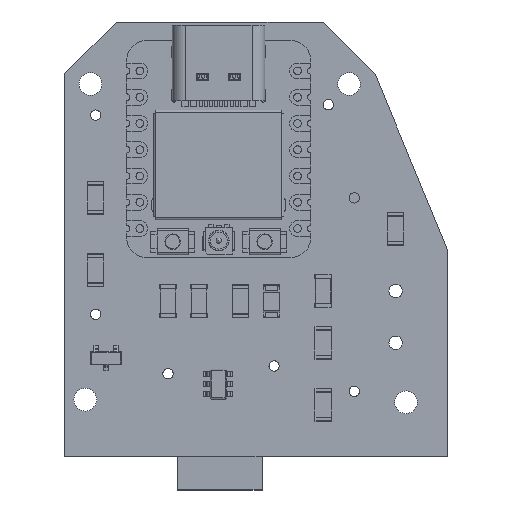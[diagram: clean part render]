
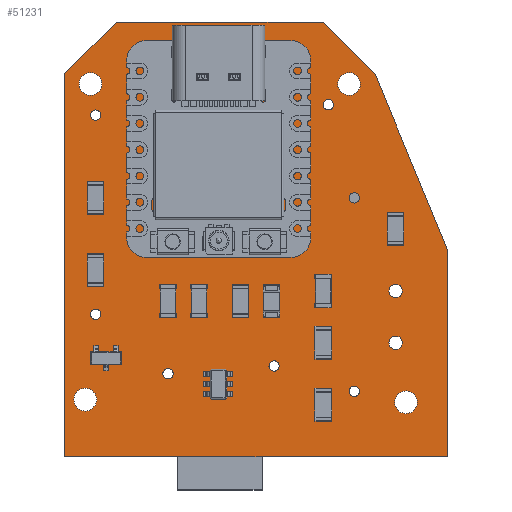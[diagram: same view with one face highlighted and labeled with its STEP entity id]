
A CAD part, top view. The second image highlights one B-rep face of the part: STEP entity #51231.
In plain terms, the highlighted planar face has unit normal (0, 0, 1).
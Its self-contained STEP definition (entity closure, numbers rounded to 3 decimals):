
#50877 = VERTEX_POINT('',#50878);
#50878 = CARTESIAN_POINT('',(115.,-80.,1.51));
#50884 = EDGE_CURVE('',#50877,#50885,#50887,.T.);
#50885 = VERTEX_POINT('',#50886);
#50886 = CARTESIAN_POINT('',(122.,-97.,1.51));
#50887 = LINE('',#50888,#50889);
#50888 = CARTESIAN_POINT('',(115.,-80.,1.51));
#50889 = VECTOR('',#50890,1.);
#50890 = DIRECTION('',(0.381,-0.925,0.));
#50917 = VERTEX_POINT('',#50918);
#50918 = CARTESIAN_POINT('',(110.,-75.,1.51));
#50924 = EDGE_CURVE('',#50917,#50877,#50925,.T.);
#50925 = LINE('',#50926,#50927);
#50926 = CARTESIAN_POINT('',(110.,-75.,1.51));
#50927 = VECTOR('',#50928,1.);
#50928 = DIRECTION('',(0.707,-0.707,0.));
#50946 = EDGE_CURVE('',#50885,#50947,#50949,.T.);
#50947 = VERTEX_POINT('',#50948);
#50948 = CARTESIAN_POINT('',(122.,-117.,1.51));
#50949 = LINE('',#50950,#50951);
#50950 = CARTESIAN_POINT('',(122.,-97.,1.51));
#50951 = VECTOR('',#50952,1.);
#50952 = DIRECTION('',(0.,-1.,0.));
#51231 = ADVANCED_FACE('',(#51232,#51267,#51278,#51289,#51300,#51311,
    #51322,#51333,#51344,#51355,#51366,#51377,#51419,#51430,#51441,
    #51452,#51463,#51474),#51485,.T.);
#51232 = FACE_BOUND('',#51233,.T.);
#51233 = EDGE_LOOP('',(#51234,#51235,#51236,#51244,#51252,#51260,#51266)
  );
#51234 = ORIENTED_EDGE('',*,*,#50884,.F.);
#51235 = ORIENTED_EDGE('',*,*,#50924,.F.);
#51236 = ORIENTED_EDGE('',*,*,#51237,.F.);
#51237 = EDGE_CURVE('',#51238,#50917,#51240,.T.);
#51238 = VERTEX_POINT('',#51239);
#51239 = CARTESIAN_POINT('',(90.,-75.,1.51));
#51240 = LINE('',#51241,#51242);
#51241 = CARTESIAN_POINT('',(90.,-75.,1.51));
#51242 = VECTOR('',#51243,1.);
#51243 = DIRECTION('',(1.,0.,0.));
#51244 = ORIENTED_EDGE('',*,*,#51245,.F.);
#51245 = EDGE_CURVE('',#51246,#51238,#51248,.T.);
#51246 = VERTEX_POINT('',#51247);
#51247 = CARTESIAN_POINT('',(85.,-80.,1.51));
#51248 = LINE('',#51249,#51250);
#51249 = CARTESIAN_POINT('',(85.,-80.,1.51));
#51250 = VECTOR('',#51251,1.);
#51251 = DIRECTION('',(0.707,0.707,0.));
#51252 = ORIENTED_EDGE('',*,*,#51253,.F.);
#51253 = EDGE_CURVE('',#51254,#51246,#51256,.T.);
#51254 = VERTEX_POINT('',#51255);
#51255 = CARTESIAN_POINT('',(85.,-117.,1.51));
#51256 = LINE('',#51257,#51258);
#51257 = CARTESIAN_POINT('',(85.,-117.,1.51));
#51258 = VECTOR('',#51259,1.);
#51259 = DIRECTION('',(0.,1.,0.));
#51260 = ORIENTED_EDGE('',*,*,#51261,.F.);
#51261 = EDGE_CURVE('',#50947,#51254,#51262,.T.);
#51262 = LINE('',#51263,#51264);
#51263 = CARTESIAN_POINT('',(122.,-117.,1.51));
#51264 = VECTOR('',#51265,1.);
#51265 = DIRECTION('',(-1.,0.,0.));
#51266 = ORIENTED_EDGE('',*,*,#50946,.F.);
#51267 = FACE_BOUND('',#51268,.T.);
#51268 = EDGE_LOOP('',(#51269));
#51269 = ORIENTED_EDGE('',*,*,#51270,.T.);
#51270 = EDGE_CURVE('',#51271,#51271,#51273,.T.);
#51271 = VERTEX_POINT('',#51272);
#51272 = CARTESIAN_POINT('',(87.,-112.6,1.51));
#51273 = CIRCLE('',#51274,1.1);
#51274 = AXIS2_PLACEMENT_3D('',#51275,#51276,#51277);
#51275 = CARTESIAN_POINT('',(87.,-111.5,1.51));
#51276 = DIRECTION('',(-0.,0.,-1.));
#51277 = DIRECTION('',(-0.,-1.,0.));
#51278 = FACE_BOUND('',#51279,.T.);
#51279 = EDGE_LOOP('',(#51280));
#51280 = ORIENTED_EDGE('',*,*,#51281,.T.);
#51281 = EDGE_CURVE('',#51282,#51282,#51284,.T.);
#51282 = VERTEX_POINT('',#51283);
#51283 = CARTESIAN_POINT('',(95.,-109.5,1.51));
#51284 = CIRCLE('',#51285,0.5);
#51285 = AXIS2_PLACEMENT_3D('',#51286,#51287,#51288);
#51286 = CARTESIAN_POINT('',(95.,-109.,1.51));
#51287 = DIRECTION('',(-0.,0.,-1.));
#51288 = DIRECTION('',(-0.,-1.,0.));
#51289 = FACE_BOUND('',#51290,.T.);
#51290 = EDGE_LOOP('',(#51291));
#51291 = ORIENTED_EDGE('',*,*,#51292,.T.);
#51292 = EDGE_CURVE('',#51293,#51293,#51295,.T.);
#51293 = VERTEX_POINT('',#51294);
#51294 = CARTESIAN_POINT('',(88.,-103.75,1.51));
#51295 = CIRCLE('',#51296,0.5);
#51296 = AXIS2_PLACEMENT_3D('',#51297,#51298,#51299);
#51297 = CARTESIAN_POINT('',(88.,-103.25,1.51));
#51298 = DIRECTION('',(-0.,0.,-1.));
#51299 = DIRECTION('',(-0.,-1.,0.));
#51300 = FACE_BOUND('',#51301,.T.);
#51301 = EDGE_LOOP('',(#51302));
#51302 = ORIENTED_EDGE('',*,*,#51303,.T.);
#51303 = EDGE_CURVE('',#51304,#51304,#51306,.T.);
#51304 = VERTEX_POINT('',#51305);
#51305 = CARTESIAN_POINT('',(105.25,-108.75,1.51));
#51306 = CIRCLE('',#51307,0.5);
#51307 = AXIS2_PLACEMENT_3D('',#51308,#51309,#51310);
#51308 = CARTESIAN_POINT('',(105.25,-108.25,1.51));
#51309 = DIRECTION('',(-0.,0.,-1.));
#51310 = DIRECTION('',(-0.,-1.,0.));
#51311 = FACE_BOUND('',#51312,.T.);
#51312 = EDGE_LOOP('',(#51313));
#51313 = ORIENTED_EDGE('',*,*,#51314,.T.);
#51314 = EDGE_CURVE('',#51315,#51315,#51317,.T.);
#51315 = VERTEX_POINT('',#51316);
#51316 = CARTESIAN_POINT('',(113.,-111.201,1.51));
#51317 = CIRCLE('',#51318,0.5);
#51318 = AXIS2_PLACEMENT_3D('',#51319,#51320,#51321);
#51319 = CARTESIAN_POINT('',(113.,-110.701,1.51));
#51320 = DIRECTION('',(-0.,0.,-1.));
#51321 = DIRECTION('',(-0.,-1.,0.));
#51322 = FACE_BOUND('',#51323,.T.);
#51323 = EDGE_LOOP('',(#51324));
#51324 = ORIENTED_EDGE('',*,*,#51325,.T.);
#51325 = EDGE_CURVE('',#51326,#51326,#51328,.T.);
#51326 = VERTEX_POINT('',#51327);
#51327 = CARTESIAN_POINT('',(118.,-112.85,1.51));
#51328 = CIRCLE('',#51329,1.1);
#51329 = AXIS2_PLACEMENT_3D('',#51330,#51331,#51332);
#51330 = CARTESIAN_POINT('',(118.,-111.75,1.51));
#51331 = DIRECTION('',(-0.,0.,-1.));
#51332 = DIRECTION('',(-0.,-1.,0.));
#51333 = FACE_BOUND('',#51334,.T.);
#51334 = EDGE_LOOP('',(#51335));
#51335 = ORIENTED_EDGE('',*,*,#51336,.T.);
#51336 = EDGE_CURVE('',#51337,#51337,#51339,.T.);
#51337 = VERTEX_POINT('',#51338);
#51338 = CARTESIAN_POINT('',(117.,-106.65,1.51));
#51339 = CIRCLE('',#51340,0.65);
#51340 = AXIS2_PLACEMENT_3D('',#51341,#51342,#51343);
#51341 = CARTESIAN_POINT('',(117.,-106.,1.51));
#51342 = DIRECTION('',(-0.,0.,-1.));
#51343 = DIRECTION('',(-0.,-1.,0.));
#51344 = FACE_BOUND('',#51345,.T.);
#51345 = EDGE_LOOP('',(#51346));
#51346 = ORIENTED_EDGE('',*,*,#51347,.T.);
#51347 = EDGE_CURVE('',#51348,#51348,#51350,.T.);
#51348 = VERTEX_POINT('',#51349);
#51349 = CARTESIAN_POINT('',(117.,-101.65,1.51));
#51350 = CIRCLE('',#51351,0.65);
#51351 = AXIS2_PLACEMENT_3D('',#51352,#51353,#51354);
#51352 = CARTESIAN_POINT('',(117.,-101.,1.51));
#51353 = DIRECTION('',(-0.,0.,-1.));
#51354 = DIRECTION('',(-0.,-1.,0.));
#51355 = FACE_BOUND('',#51356,.T.);
#51356 = EDGE_LOOP('',(#51357));
#51357 = ORIENTED_EDGE('',*,*,#51358,.T.);
#51358 = EDGE_CURVE('',#51359,#51359,#51361,.T.);
#51359 = VERTEX_POINT('',#51360);
#51360 = CARTESIAN_POINT('',(88.,-84.5,1.51));
#51361 = CIRCLE('',#51362,0.5);
#51362 = AXIS2_PLACEMENT_3D('',#51363,#51364,#51365);
#51363 = CARTESIAN_POINT('',(88.,-84.,1.51));
#51364 = DIRECTION('',(-0.,0.,-1.));
#51365 = DIRECTION('',(-0.,-1.,0.));
#51366 = FACE_BOUND('',#51367,.T.);
#51367 = EDGE_LOOP('',(#51368));
#51368 = ORIENTED_EDGE('',*,*,#51369,.T.);
#51369 = EDGE_CURVE('',#51370,#51370,#51372,.T.);
#51370 = VERTEX_POINT('',#51371);
#51371 = CARTESIAN_POINT('',(87.5,-82.1,1.51));
#51372 = CIRCLE('',#51373,1.1);
#51373 = AXIS2_PLACEMENT_3D('',#51374,#51375,#51376);
#51374 = CARTESIAN_POINT('',(87.5,-81.,1.51));
#51375 = DIRECTION('',(-0.,0.,-1.));
#51376 = DIRECTION('',(-0.,-1.,0.));
#51377 = FACE_BOUND('',#51378,.T.);
#51378 = EDGE_LOOP('',(#51379,#51389,#51397,#51405,#51413));
#51379 = ORIENTED_EDGE('',*,*,#51380,.F.);
#51380 = EDGE_CURVE('',#51381,#51383,#51385,.T.);
#51381 = VERTEX_POINT('',#51382);
#51382 = CARTESIAN_POINT('',(94.,-90.,1.51));
#51383 = VERTEX_POINT('',#51384);
#51384 = CARTESIAN_POINT('',(101.,-90.,1.51));
#51385 = LINE('',#51386,#51387);
#51386 = CARTESIAN_POINT('',(94.,-90.,1.51));
#51387 = VECTOR('',#51388,1.);
#51388 = DIRECTION('',(1.,0.,0.));
#51389 = ORIENTED_EDGE('',*,*,#51390,.F.);
#51390 = EDGE_CURVE('',#51391,#51381,#51393,.T.);
#51391 = VERTEX_POINT('',#51392);
#51392 = CARTESIAN_POINT('',(94.,-81.,1.51));
#51393 = LINE('',#51394,#51395);
#51394 = CARTESIAN_POINT('',(94.,-81.,1.51));
#51395 = VECTOR('',#51396,1.);
#51396 = DIRECTION('',(0.,-1.,0.));
#51397 = ORIENTED_EDGE('',*,*,#51398,.F.);
#51398 = EDGE_CURVE('',#51399,#51391,#51401,.T.);
#51399 = VERTEX_POINT('',#51400);
#51400 = CARTESIAN_POINT('',(103.,-81.,1.51));
#51401 = LINE('',#51402,#51403);
#51402 = CARTESIAN_POINT('',(103.,-81.,1.51));
#51403 = VECTOR('',#51404,1.);
#51404 = DIRECTION('',(-1.,0.,0.));
#51405 = ORIENTED_EDGE('',*,*,#51406,.F.);
#51406 = EDGE_CURVE('',#51407,#51399,#51409,.T.);
#51407 = VERTEX_POINT('',#51408);
#51408 = CARTESIAN_POINT('',(103.,-88.,1.51));
#51409 = LINE('',#51410,#51411);
#51410 = CARTESIAN_POINT('',(103.,-88.,1.51));
#51411 = VECTOR('',#51412,1.);
#51412 = DIRECTION('',(0.,1.,0.));
#51413 = ORIENTED_EDGE('',*,*,#51414,.F.);
#51414 = EDGE_CURVE('',#51383,#51407,#51415,.T.);
#51415 = LINE('',#51416,#51417);
#51416 = CARTESIAN_POINT('',(101.,-90.,1.51));
#51417 = VECTOR('',#51418,1.);
#51418 = DIRECTION('',(0.707,0.707,0.));
#51419 = FACE_BOUND('',#51420,.T.);
#51420 = EDGE_LOOP('',(#51421));
#51421 = ORIENTED_EDGE('',*,*,#51422,.T.);
#51422 = EDGE_CURVE('',#51423,#51423,#51425,.T.);
#51423 = VERTEX_POINT('',#51424);
#51424 = CARTESIAN_POINT('',(105.,-95.5,1.51));
#51425 = CIRCLE('',#51426,0.5);
#51426 = AXIS2_PLACEMENT_3D('',#51427,#51428,#51429);
#51427 = CARTESIAN_POINT('',(105.,-95.,1.51));
#51428 = DIRECTION('',(-0.,0.,-1.));
#51429 = DIRECTION('',(-0.,-1.,0.));
#51430 = FACE_BOUND('',#51431,.T.);
#51431 = EDGE_LOOP('',(#51432));
#51432 = ORIENTED_EDGE('',*,*,#51433,.T.);
#51433 = EDGE_CURVE('',#51434,#51434,#51436,.T.);
#51434 = VERTEX_POINT('',#51435);
#51435 = CARTESIAN_POINT('',(113.,-92.5,1.51));
#51436 = CIRCLE('',#51437,0.5);
#51437 = AXIS2_PLACEMENT_3D('',#51438,#51439,#51440);
#51438 = CARTESIAN_POINT('',(113.,-92.,1.51));
#51439 = DIRECTION('',(-0.,0.,-1.));
#51440 = DIRECTION('',(-0.,-1.,0.));
#51441 = FACE_BOUND('',#51442,.T.);
#51442 = EDGE_LOOP('',(#51443));
#51443 = ORIENTED_EDGE('',*,*,#51444,.T.);
#51444 = EDGE_CURVE('',#51445,#51445,#51447,.T.);
#51445 = VERTEX_POINT('',#51446);
#51446 = CARTESIAN_POINT('',(105.,-88.,1.51));
#51447 = CIRCLE('',#51448,0.5);
#51448 = AXIS2_PLACEMENT_3D('',#51449,#51450,#51451);
#51449 = CARTESIAN_POINT('',(105.,-87.5,1.51));
#51450 = DIRECTION('',(-0.,0.,-1.));
#51451 = DIRECTION('',(-0.,-1.,0.));
#51452 = FACE_BOUND('',#51453,.T.);
#51453 = EDGE_LOOP('',(#51454));
#51454 = ORIENTED_EDGE('',*,*,#51455,.T.);
#51455 = EDGE_CURVE('',#51456,#51456,#51458,.T.);
#51456 = VERTEX_POINT('',#51457);
#51457 = CARTESIAN_POINT('',(105.,-85.46,1.51));
#51458 = CIRCLE('',#51459,0.5);
#51459 = AXIS2_PLACEMENT_3D('',#51460,#51461,#51462);
#51460 = CARTESIAN_POINT('',(105.,-84.96,1.51));
#51461 = DIRECTION('',(-0.,0.,-1.));
#51462 = DIRECTION('',(-0.,-1.,0.));
#51463 = FACE_BOUND('',#51464,.T.);
#51464 = EDGE_LOOP('',(#51465));
#51465 = ORIENTED_EDGE('',*,*,#51466,.T.);
#51466 = EDGE_CURVE('',#51467,#51467,#51469,.T.);
#51467 = VERTEX_POINT('',#51468);
#51468 = CARTESIAN_POINT('',(110.5,-83.5,1.51));
#51469 = CIRCLE('',#51470,0.5);
#51470 = AXIS2_PLACEMENT_3D('',#51471,#51472,#51473);
#51471 = CARTESIAN_POINT('',(110.5,-83.,1.51));
#51472 = DIRECTION('',(-0.,0.,-1.));
#51473 = DIRECTION('',(-0.,-1.,0.));
#51474 = FACE_BOUND('',#51475,.T.);
#51475 = EDGE_LOOP('',(#51476));
#51476 = ORIENTED_EDGE('',*,*,#51477,.T.);
#51477 = EDGE_CURVE('',#51478,#51478,#51480,.T.);
#51478 = VERTEX_POINT('',#51479);
#51479 = CARTESIAN_POINT('',(112.5,-82.1,1.51));
#51480 = CIRCLE('',#51481,1.1);
#51481 = AXIS2_PLACEMENT_3D('',#51482,#51483,#51484);
#51482 = CARTESIAN_POINT('',(112.5,-81.,1.51));
#51483 = DIRECTION('',(-0.,0.,-1.));
#51484 = DIRECTION('',(-0.,-1.,0.));
#51485 = PLANE('',#51486);
#51486 = AXIS2_PLACEMENT_3D('',#51487,#51488,#51489);
#51487 = CARTESIAN_POINT('',(0.,0.,1.51));
#51488 = DIRECTION('',(0.,0.,1.));
#51489 = DIRECTION('',(1.,0.,-0.));
